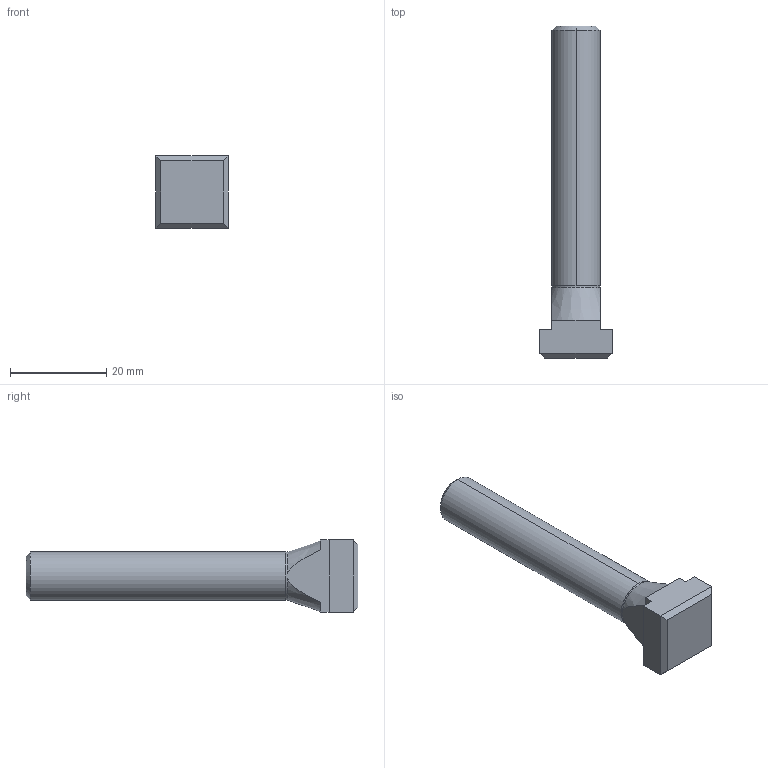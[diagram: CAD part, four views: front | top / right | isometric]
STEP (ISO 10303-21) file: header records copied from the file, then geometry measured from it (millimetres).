
FILE_DESCRIPTION (( 'STEP AP203' ), '1' );
FILE_NAME ('Wiberger-din787_10-m10x63.step', '2016-07-01T13:16:38', ( 'Magnus' ), ( 'Microsoft' ), 'SwSTEP 2.0', 'SolidWorks 2016', '' );
FILE_SCHEMA (( 'CONFIG_CONTROL_DESIGN' ));
Length unit declared in the file: millimetre
Products named in the file (1): Wiberger-din787_10-m10x63
Bounding box: 15 x 69 x 15 mm (x, y, z)
Volume: 6590.5 mm3; surface area: 2765 mm2
Topology: 1 solids, 1 shells, 28 faces, 70 edges, 44 vertices
Faces by surface type: plane 18, cone 5, cylinder 5
Entity records: 959 total; most frequent: CARTESIAN_POINT 213, ORIENTED_EDGE 140, DIRECTION 138, EDGE_CURVE 70, AXIS2_PLACEMENT_3D 47, LINE 44, VECTOR 44, VERTEX_POINT 44
